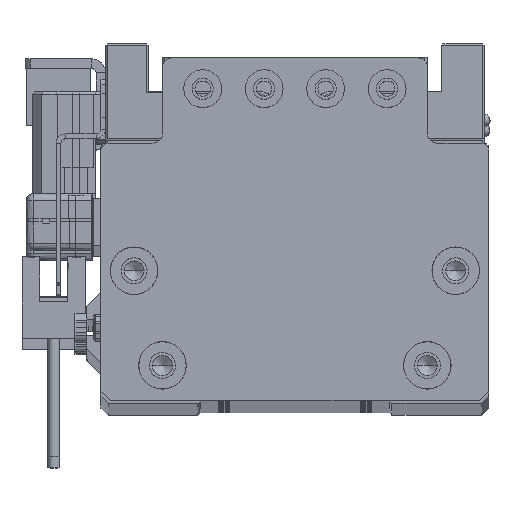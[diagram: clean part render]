
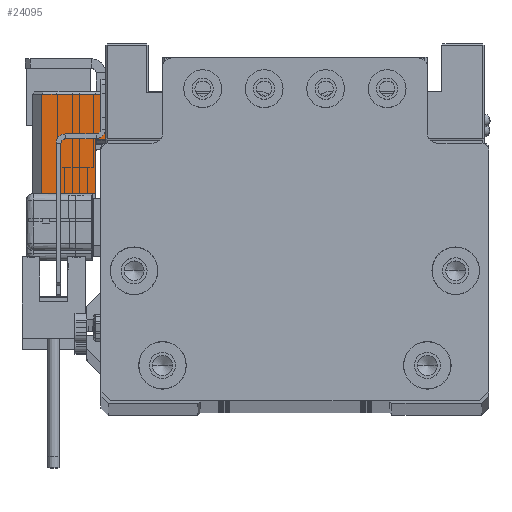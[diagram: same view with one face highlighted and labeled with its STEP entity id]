
A CAD part, top view. The second image highlights one B-rep face of the part: STEP entity #24095.
In plain terms, the highlighted planar face has unit normal (0, 0, 1) as drawn and (1, 0, 0) by its records, which use the part's own axes.
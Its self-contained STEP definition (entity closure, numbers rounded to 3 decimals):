
#283 = CARTESIAN_POINT ( 'NONE',  ( 17., 0.75, -13.3 ) ) ;
#633 = CARTESIAN_POINT ( 'NONE',  ( 17., 0.75, -15.5 ) ) ;
#683 = VECTOR ( 'NONE', #35215, 1000. ) ;
#1890 = LINE ( 'NONE', #37561, #61019 ) ;
#4484 = ORIENTED_EDGE ( 'NONE', *, *, #48970, .T. ) ;
#9945 = EDGE_CURVE ( 'NONE', #34987, #25008, #32645, .T. ) ;
#10194 = VERTEX_POINT ( 'NONE', #42182 ) ;
#10442 = VECTOR ( 'NONE', #13257, 1000. ) ;
#11499 = VECTOR ( 'NONE', #52840, 1000. ) ;
#12401 = DIRECTION ( 'NONE',  ( 0., 1., 0. ) ) ;
#12597 = ORIENTED_EDGE ( 'NONE', *, *, #9945, .T. ) ;
#13257 = DIRECTION ( 'NONE',  ( 0., 0., 1. ) ) ;
#14290 = CARTESIAN_POINT ( 'NONE',  ( 17., 10.25, -15.5 ) ) ;
#16311 = CARTESIAN_POINT ( 'NONE',  ( 17., 10.25, -15.5 ) ) ;
#16636 = ORIENTED_EDGE ( 'NONE', *, *, #51975, .F. ) ;
#16810 = CARTESIAN_POINT ( 'NONE',  ( 17., -10.75, -15.5 ) ) ;
#18218 = CARTESIAN_POINT ( 'NONE',  ( 17., -10.75, -15.5 ) ) ;
#22489 = ORIENTED_EDGE ( 'NONE', *, *, #35295, .T. ) ;
#24095 = ADVANCED_FACE ( 'NONE', ( #31577 ), #64160, .T. ) ;
#25008 = VERTEX_POINT ( 'NONE', #16311 ) ;
#31577 = FACE_OUTER_BOUND ( 'NONE', #36345, .T. ) ;
#31906 = CARTESIAN_POINT ( 'NONE',  ( 17., -10.75, -2. ) ) ;
#32645 = LINE ( 'NONE', #18218, #60206 ) ;
#33901 = VERTEX_POINT ( 'NONE', #283 ) ;
#34172 = CARTESIAN_POINT ( 'NONE',  ( 17., 0.75, -15.5 ) ) ;
#34987 = VERTEX_POINT ( 'NONE', #633 ) ;
#35215 = DIRECTION ( 'NONE',  ( 0., 0., 1. ) ) ;
#35295 = EDGE_CURVE ( 'NONE', #25008, #37517, #41017, .T. ) ;
#36345 = EDGE_LOOP ( 'NONE', ( #12597, #22489, #4484, #51844, #16636, #39718 ) ) ;
#37450 = DIRECTION ( 'NONE',  ( 0., 0., 1. ) ) ;
#37517 = VERTEX_POINT ( 'NONE', #55186 ) ;
#37561 = CARTESIAN_POINT ( 'NONE',  ( 17., -10.75, -13.3 ) ) ;
#37731 = DIRECTION ( 'NONE',  ( 0., 0., -1. ) ) ;
#39718 = ORIENTED_EDGE ( 'NONE', *, *, #59759, .F. ) ;
#41017 = LINE ( 'NONE', #14290, #683 ) ;
#42182 = CARTESIAN_POINT ( 'NONE',  ( 17., -10.75, -13.3 ) ) ;
#42611 = LINE ( 'NONE', #63560, #47258 ) ;
#43964 = EDGE_CURVE ( 'NONE', #10194, #44031, #42611, .T. ) ;
#44031 = VERTEX_POINT ( 'NONE', #54593 ) ;
#47258 = VECTOR ( 'NONE', #37450, 1000. ) ;
#48970 = EDGE_CURVE ( 'NONE', #37517, #44031, #58658, .T. ) ;
#49242 = DIRECTION ( 'NONE',  ( 0., -1., 0. ) ) ;
#51844 = ORIENTED_EDGE ( 'NONE', *, *, #43964, .F. ) ;
#51975 = EDGE_CURVE ( 'NONE', #33901, #10194, #1890, .T. ) ;
#52521 = DIRECTION ( 'NONE',  ( 1., 0., 0. ) ) ;
#52840 = DIRECTION ( 'NONE',  ( 0., -1., 0. ) ) ;
#54593 = CARTESIAN_POINT ( 'NONE',  ( 17., -10.75, -2. ) ) ;
#54773 = LINE ( 'NONE', #34172, #10442 ) ;
#55186 = CARTESIAN_POINT ( 'NONE',  ( 17., 10.25, -2. ) ) ;
#58658 = LINE ( 'NONE', #31906, #11499 ) ;
#59049 = AXIS2_PLACEMENT_3D ( 'NONE', #16810, #52521, #37731 ) ;
#59759 = EDGE_CURVE ( 'NONE', #34987, #33901, #54773, .T. ) ;
#60206 = VECTOR ( 'NONE', #12401, 1000. ) ;
#61019 = VECTOR ( 'NONE', #49242, 1000. ) ;
#63560 = CARTESIAN_POINT ( 'NONE',  ( 17., -10.75, -15.5 ) ) ;
#64160 = PLANE ( 'NONE',  #59049 ) ;
